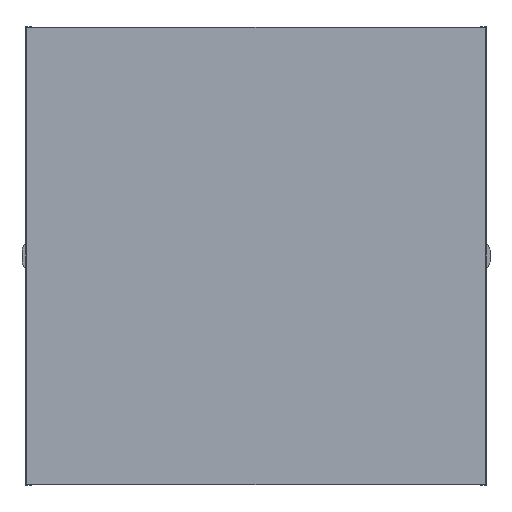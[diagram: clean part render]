
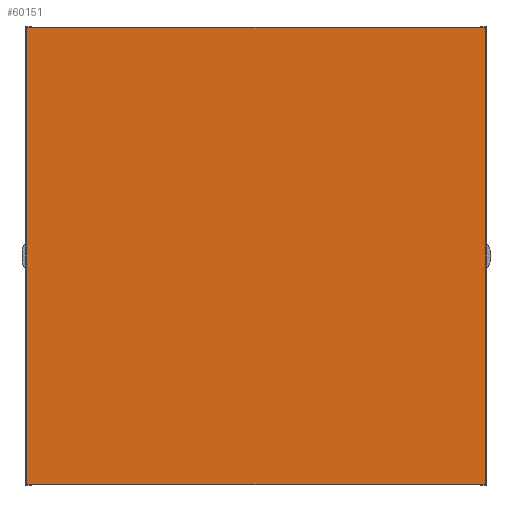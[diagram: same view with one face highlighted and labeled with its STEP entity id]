
A CAD part, top view. The second image highlights one B-rep face of the part: STEP entity #60151.
In plain terms, the highlighted planar face has unit normal (0, 0, 1).
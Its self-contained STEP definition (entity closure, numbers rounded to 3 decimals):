
#4972=FACE_OUTER_BOUND('',#8206,.T.);
#8206=EDGE_LOOP('',(#42372,#42373,#42374,#42375));
#12375=LINE('',#94882,#18342);
#12377=LINE('',#94886,#18344);
#12378=LINE('',#94888,#18345);
#12379=LINE('',#94889,#18346);
#18342=VECTOR('',#73036,10.);
#18344=VECTOR('',#73040,10.);
#18345=VECTOR('',#73041,10.);
#18346=VECTOR('',#73042,10.);
#24264=VERTEX_POINT('',#94879);
#24265=VERTEX_POINT('',#94881);
#24266=VERTEX_POINT('',#94885);
#24267=VERTEX_POINT('',#94887);
#30896=EDGE_CURVE('',#24265,#24264,#12375,.T.);
#30898=EDGE_CURVE('',#24264,#24266,#12377,.T.);
#30899=EDGE_CURVE('',#24266,#24267,#12378,.T.);
#30900=EDGE_CURVE('',#24267,#24265,#12379,.T.);
#42372=ORIENTED_EDGE('',*,*,#30896,.T.);
#42373=ORIENTED_EDGE('',*,*,#30898,.T.);
#42374=ORIENTED_EDGE('',*,*,#30899,.T.);
#42375=ORIENTED_EDGE('',*,*,#30900,.T.);
#54499=PLANE('',#64126);
#60151=ADVANCED_FACE('',(#4972),#54499,.T.);
#64126=AXIS2_PLACEMENT_3D('',#94884,#73038,#73039);
#73036=DIRECTION('',(0.,-1.,0.));
#73038=DIRECTION('center_axis',(0.,0.,1.));
#73039=DIRECTION('ref_axis',(1.,0.,0.));
#73040=DIRECTION('',(1.,0.,0.));
#73041=DIRECTION('',(0.,1.,0.));
#73042=DIRECTION('',(-1.,0.,0.));
#94879=CARTESIAN_POINT('',(-60.2,-60.,3.5));
#94881=CARTESIAN_POINT('',(-60.2,60.,3.5));
#94882=CARTESIAN_POINT('',(-60.2,-60.,3.5));
#94884=CARTESIAN_POINT('Origin',(0.,0.,
3.5));
#94885=CARTESIAN_POINT('',(60.2,-60.,3.5));
#94886=CARTESIAN_POINT('',(60.2,-60.,3.5));
#94887=CARTESIAN_POINT('',(60.2,60.,3.5));
#94888=CARTESIAN_POINT('',(60.2,60.,3.5));
#94889=CARTESIAN_POINT('',(-60.2,60.,3.5));
